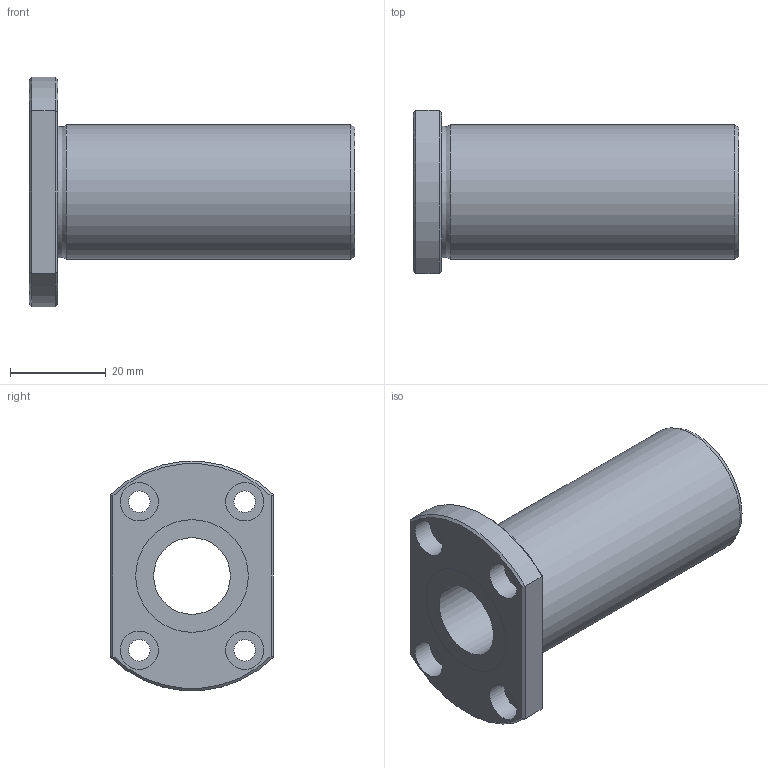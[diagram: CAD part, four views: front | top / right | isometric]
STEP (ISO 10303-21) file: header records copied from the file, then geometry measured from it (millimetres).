
FILE_DESCRIPTION((''),'2;1');
FILE_NAME('D:\製品 (図面)\カタログ用3D\リニアベアリング関連\STEP形式\LFDT\LFDT16B.stp','2010-06-03T09:45:15',('Tsuchiya'),(''),'Autodesk Inventor 10','Autodesk Inventor 10','');
FILE_SCHEMA(('AUTOMOTIVE_DESIGN { 1 0 10303 214 1 1 1 1 }'));
Length unit declared in the file: millimetre
Products named in the file (1): LFDT16B
Bounding box: 68 x 34 x 47.82 mm (x, y, z)
Volume: 32282 mm3; surface area: 12610.3 mm2
Topology: 1 solids, 1 shells, 35 faces, 68 edges, 42 vertices
Faces by surface type: plane 15, cylinder 14, cone 4, torus 1, bspline 1
Full cylindrical faces by diameter (mm): 4.5 x4, 8 x4, 16 x1, 23.5 x2, 28 x1
Entity records: 935 total; most frequent: CARTESIAN_POINT 218, DIRECTION 150, ORIENTED_EDGE 108, AXIS2_PLACEMENT_3D 69, EDGE_LOOP 66, EDGE_CURVE 54, VERTEX_POINT 42, FACE_OUTER_BOUND 35
